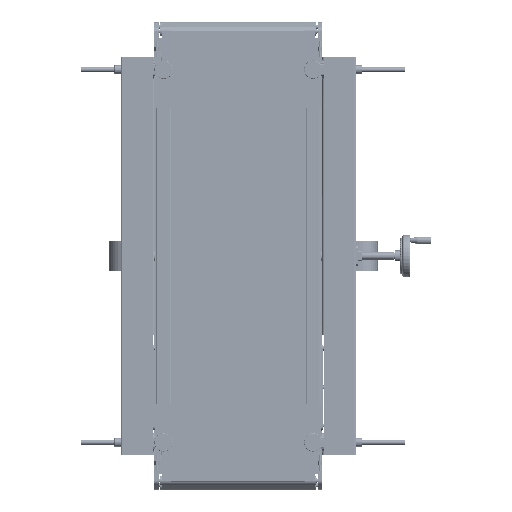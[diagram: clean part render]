
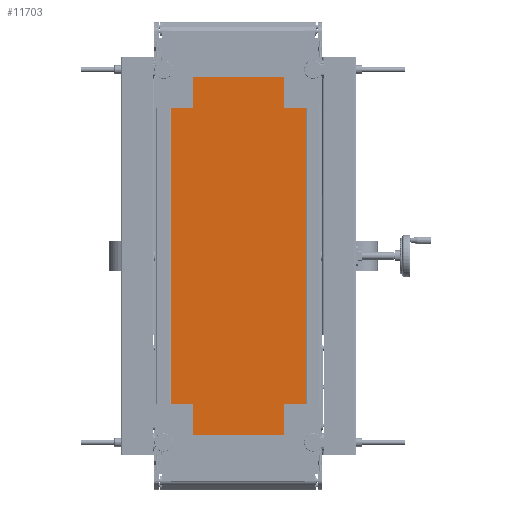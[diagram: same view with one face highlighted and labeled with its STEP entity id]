
A CAD part, front view. The second image highlights one B-rep face of the part: STEP entity #11703.
In plain terms, the highlighted planar face has unit normal (0, -1, 0) as drawn and (0, 0, 1) by its records, which use the part's own axes.
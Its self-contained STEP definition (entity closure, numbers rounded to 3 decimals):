
#8093=PLANE('',#121212);
#11703=ADVANCED_FACE('',(#20059),#8093,.T.);
#20059=FACE_OUTER_BOUND('',#26074,.T.);
#26074=EDGE_LOOP('',(#54858,#54859,#54860,#54861,#54862,#54863,#54864,#54865,
#54866,#54867,#54868,#54869));
#33685=LINE('',#164629,#43866);
#33691=LINE('',#164642,#43872);
#33693=LINE('',#164647,#43874);
#33697=LINE('',#164656,#43878);
#33708=LINE('',#164675,#43889);
#33709=LINE('',#164677,#43890);
#33710=LINE('',#164678,#43891);
#33711=LINE('',#164680,#43892);
#33712=LINE('',#164681,#43893);
#33713=LINE('',#164683,#43894);
#33714=LINE('',#164684,#43895);
#33715=LINE('',#164686,#43896);
#43866=VECTOR('',#132349,1.);
#43872=VECTOR('',#132357,1.);
#43874=VECTOR('',#132361,1.);
#43878=VECTOR('',#132367,1.);
#43889=VECTOR('',#132382,1.);
#43890=VECTOR('',#132383,1.);
#43891=VECTOR('',#132384,1.);
#43892=VECTOR('',#132385,1.);
#43893=VECTOR('',#132386,1.);
#43894=VECTOR('',#132387,1.);
#43895=VECTOR('',#132388,1.);
#43896=VECTOR('',#132389,1.);
#54858=ORIENTED_EDGE('',*,*,#99638,.F.);
#54859=ORIENTED_EDGE('',*,*,#99639,.F.);
#54860=ORIENTED_EDGE('',*,*,#99621,.T.);
#54861=ORIENTED_EDGE('',*,*,#99640,.F.);
#54862=ORIENTED_EDGE('',*,*,#99641,.F.);
#54863=ORIENTED_EDGE('',*,*,#99615,.T.);
#54864=ORIENTED_EDGE('',*,*,#99642,.F.);
#54865=ORIENTED_EDGE('',*,*,#99643,.F.);
#54866=ORIENTED_EDGE('',*,*,#99627,.T.);
#54867=ORIENTED_EDGE('',*,*,#99644,.F.);
#54868=ORIENTED_EDGE('',*,*,#99645,.F.);
#54869=ORIENTED_EDGE('',*,*,#99623,.T.);
#88625=VERTEX_POINT('',#164628);
#88626=VERTEX_POINT('',#164630);
#88629=VERTEX_POINT('',#164637);
#88631=VERTEX_POINT('',#164641);
#88633=VERTEX_POINT('',#164646);
#88634=VERTEX_POINT('',#164648);
#88637=VERTEX_POINT('',#164655);
#88638=VERTEX_POINT('',#164657);
#88644=VERTEX_POINT('',#164676);
#88645=VERTEX_POINT('',#164679);
#88646=VERTEX_POINT('',#164682);
#88647=VERTEX_POINT('',#164685);
#99615=EDGE_CURVE('',#88626,#88625,#33685,.T.);
#99621=EDGE_CURVE('',#88629,#88631,#33691,.T.);
#99623=EDGE_CURVE('',#88634,#88633,#33693,.T.);
#99627=EDGE_CURVE('',#88638,#88637,#33697,.T.);
#99638=EDGE_CURVE('',#88644,#88633,#33708,.T.);
#99639=EDGE_CURVE('',#88629,#88644,#33709,.T.);
#99640=EDGE_CURVE('',#88645,#88631,#33710,.T.);
#99641=EDGE_CURVE('',#88626,#88645,#33711,.T.);
#99642=EDGE_CURVE('',#88646,#88625,#33712,.T.);
#99643=EDGE_CURVE('',#88638,#88646,#33713,.T.);
#99644=EDGE_CURVE('',#88647,#88637,#33714,.T.);
#99645=EDGE_CURVE('',#88634,#88647,#33715,.T.);
#121212=AXIS2_PLACEMENT_3D('',#164687,#132390,#132391);
#132349=DIRECTION('',(0.,-1.,0.));
#132357=DIRECTION('',(-1.,0.,0.));
#132361=DIRECTION('',(0.,1.,0.));
#132367=DIRECTION('',(1.,0.,0.));
#132382=DIRECTION('',(1.,0.,0.));
#132383=DIRECTION('',(0.,-1.,0.));
#132384=DIRECTION('',(0.,1.,0.));
#132385=DIRECTION('',(1.,0.,0.));
#132386=DIRECTION('',(-1.,0.,0.));
#132387=DIRECTION('',(0.,1.,0.));
#132388=DIRECTION('',(0.,-1.,0.));
#132389=DIRECTION('',(-1.,0.,0.));
#132390=DIRECTION('',(0.,0.,1.));
#132391=DIRECTION('',(-1.,0.,0.));
#164628=CARTESIAN_POINT('',(0.,-470.,0.));
#164629=CARTESIAN_POINT('',(0.,0.,0.));
#164630=CARTESIAN_POINT('',(0.,-50.,0.));
#164637=CARTESIAN_POINT('',(1190.,0.,0.));
#164641=CARTESIAN_POINT('',(50.,0.,0.));
#164642=CARTESIAN_POINT('',(0.,0.,0.));
#164646=CARTESIAN_POINT('',(1240.,-50.,0.));
#164647=CARTESIAN_POINT('',(1240.,0.,0.));
#164648=CARTESIAN_POINT('',(1240.,-470.,0.));
#164655=CARTESIAN_POINT('',(1190.,-520.,0.));
#164656=CARTESIAN_POINT('',(0.,-520.,0.));
#164657=CARTESIAN_POINT('',(50.,-520.,0.));
#164675=CARTESIAN_POINT('',(1240.,-50.,0.));
#164676=CARTESIAN_POINT('',(1190.,-50.,0.));
#164677=CARTESIAN_POINT('',(1190.,0.,0.));
#164678=CARTESIAN_POINT('',(50.,0.,0.));
#164679=CARTESIAN_POINT('',(50.,-50.,0.));
#164680=CARTESIAN_POINT('',(0.,-50.,0.));
#164681=CARTESIAN_POINT('',(0.,-470.,0.));
#164682=CARTESIAN_POINT('',(50.,-470.,0.));
#164683=CARTESIAN_POINT('',(50.,-520.,0.));
#164684=CARTESIAN_POINT('',(1190.,-520.,0.));
#164685=CARTESIAN_POINT('',(1190.,-470.,0.));
#164686=CARTESIAN_POINT('',(1240.,-470.,0.));
#164687=CARTESIAN_POINT('',(0.,0.,0.));
